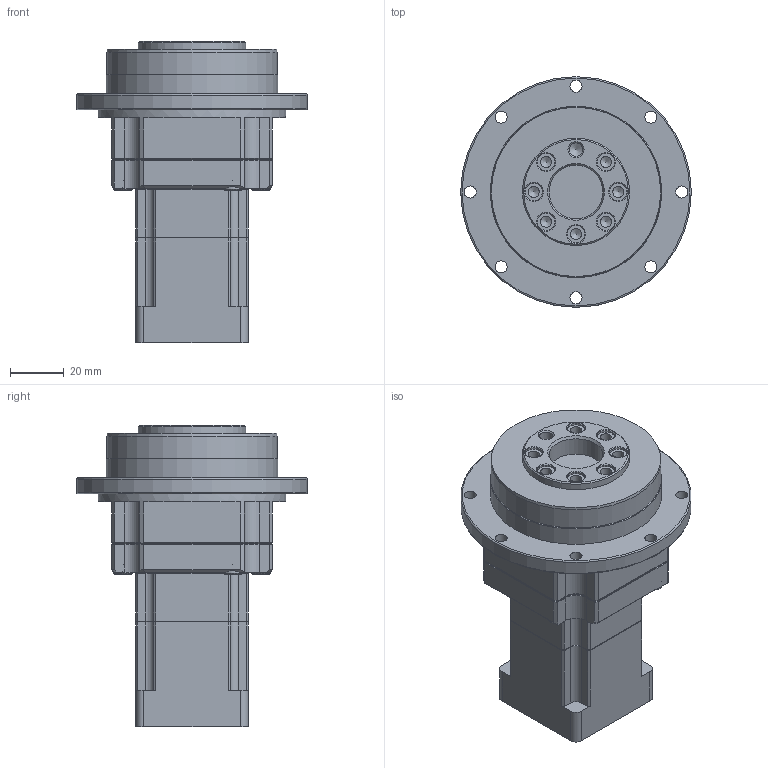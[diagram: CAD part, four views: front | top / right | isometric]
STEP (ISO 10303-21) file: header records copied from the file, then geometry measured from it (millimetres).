
FILE_DESCRIPTION((''),'2;1');
FILE_NAME('D:\유성\유성\도면\3D\2. 홈페이지용 3D 도면 (ipt)\외부도\SPIFH060\SPIFH060 DOWN\SPIFH060D SERIES (2 STAGE)_Shrinkwrap_1.stp','2014-05-08T14:16:04',('nagyu'),(''),'Autodesk Inventor 2013','Autodesk Inventor 2013','');
FILE_SCHEMA(('AUTOMOTIVE_DESIGN { 1 0 10303 214 1 1 1 1 }'));
Length unit declared in the file: millimetre
Products named in the file (1): SPIFH060D SERIES (2 STAGE)_Shrinkwrap_1
Bounding box: 86 x 86 x 112.3 mm (x, y, z)
Volume: 262787.9 mm3; surface area: 45725.8 mm2
Topology: 1 solids, 7 shells, 429 faces, 1004 edges, 614 vertices
Faces by surface type: plane 201, cylinder 128, cone 90, bspline 8, torus 2
Full cylindrical faces by diameter (mm): 4 x4, 4.134 x7, 4.5 x12, 5 x1, 6 x1, 6.5 x7, 7 x4, 8 x5, 11 x1, 20 x1, 29.5 x1, 30 x1, 36 x2, 37 x2, 37.6 x1, 40 x1, 63.5 x1, 64 x1, 70 x1, 86 x1
Entity records: 16743 total; most frequent: CARTESIAN_POINT 7066, DIRECTION 1989, ORIENTED_EDGE 1772, EDGE_CURVE 886, AXIS2_PLACEMENT_3D 776, VERTEX_POINT 587, EDGE_LOOP 573, VECTOR 437
